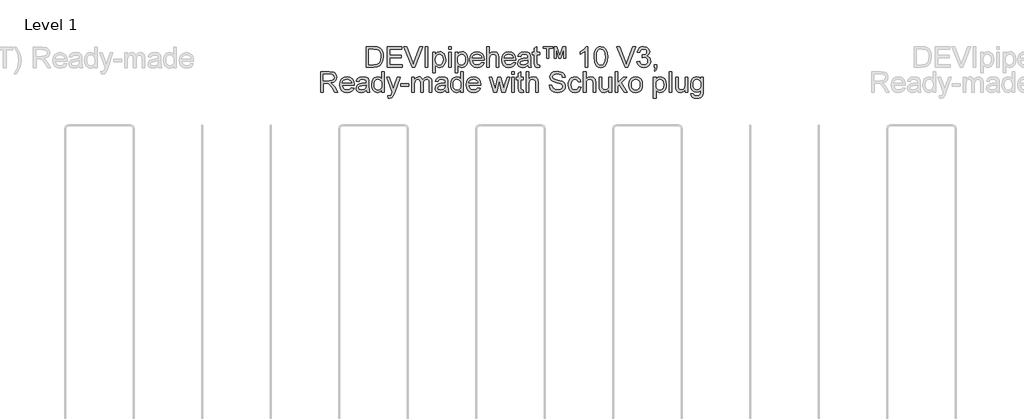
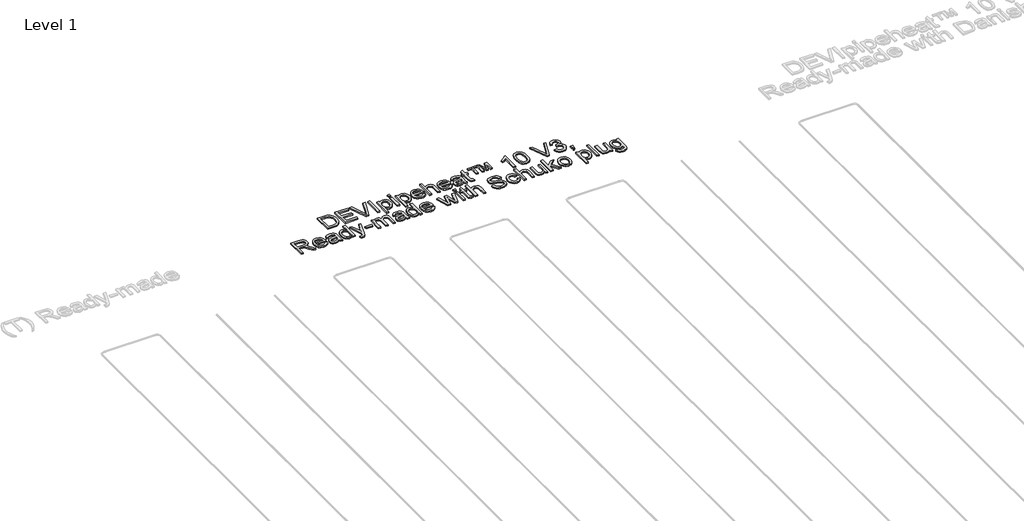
# One storey, part 25 of 26: 1 proxy.
"""IFC4 building model written with IfcOpenShell, lengths in millimetres."""

from ifc_helpers import new_model, si_unit, origin, origin_with_axes, place, context, project, spatial, polyline, outline, extrude, element, save

model = new_model("IFC4")

# Units and contexts
model_context = context("Model", 3, world=origin())
ifc_project = project(units=[si_unit("LENGTHUNIT", "METRE", prefix="MILLI")], contexts=[model_context])

# Site, building, storey
site = spatial("IfcSite", under=ifc_project)
building = spatial("IfcBuilding", under=site)
storey = spatial("IfcBuildingStorey", under=building, Name="Level 1", Elevation=0.0)

# Proxy
placement = place(None, origin())
element("IfcBuildingElementProxy", 1, Name="150mm", ObjectType="150mm", at=placement, inside=storey, context=model_context, shape_type="SweptSolid", body=[
    extrude(outline(polyline([(9110.8051646, 2484.9298), (9110.8051646, 2635.6142653), (9162.7868906, 2635.6142653), (9189.6790644, 2633.4437615), (9211.8255605, 2622.664819), (9222.245818, 2611.1869008), (9229.6678373, 2596.9130794), (9234.1100124, 2580.1192663), (9235.5907374, 2561.081373), (9231.5808237, 2530.6759261), (9221.2801278, 2508.7317651), (9207.5213412, 2495.064949), (9189.5135175, 2487.504974), (9165.2884881, 2484.9298), (9110.8051646, 2484.9298)]), holes=[polyline([(9129.6407228, 2503.7653582), (9162.9708316, 2503.7653582), (9187.214255, 2506.487685), (9201.1937709, 2514.1764187), (9212.653295, 2532.8832181), (9216.7551793, 2561.3756786), (9214.7456239, 2581.903494), (9208.7169577, 2597.0602322), (9199.8096149, 2607.4712926), (9189.1640296, 2613.7620748), (9162.4557968, 2616.7787071), (9129.6407228, 2616.7787071), (9129.6407228, 2503.7653582)])]), origin_with_axes(), (0.0, 0.0, 1.0), 10.0),
    extrude(outline(polyline([(9261.4896299, 2484.9298), (9261.4896299, 2635.6142653), (9369.7940893, 2635.6142653), (9369.7940893, 2616.7787071), (9280.325188, 2616.7787071), (9280.325188, 2572.0442565), (9365.0851997, 2572.0442565), (9365.0851997, 2553.2086983), (9280.325188, 2553.2086983), (9280.325188, 2503.7653582), (9372.148534, 2503.7653582), (9372.148534, 2484.9298), (9261.4896299, 2484.9298)])), origin_with_axes(), (0.0, 0.0, 1.0), 10.0),
    extrude(outline(polyline([(9444.9155927, 2484.9298), (9384.9508275, 2635.6142653), (9405.1107608, 2635.6142653), (9445.2466865, 2527.0522885), (9453.3768786, 2502.5881358), (9461.3967061, 2527.0522885), (9501.6429963, 2635.6142653), (9521.8029297, 2635.6142653), (9464.3765502, 2484.9298), (9444.9155927, 2484.9298)])), origin_with_axes(), (0.0, 0.0, 1.0), 10.0),
    extrude(outline(polyline([(9541.6685574, 2484.9298), (9541.6685574, 2635.6142653), (9560.5041156, 2635.6142653), (9560.5041156, 2484.9298), (9541.6685574, 2484.9298)])), origin_with_axes(), (0.0, 0.0, 1.0), 10.0),
    extrude(outline(polyline([(9595.8207871, 2442.5497942), (9595.8207871, 2595.5887042), (9614.6563452, 2595.5887042), (9614.6563452, 2577.121028), (9627.6793679, 2592.7376187), (9645.2641272, 2597.943149), (9658.0020413, 2596.1221331), (9669.1396687, 2590.6590855), (9678.2079599, 2581.8850999), (9684.7378653, 2570.1312701), (9689.9985779, 2541.1053807), (9688.5132543, 2524.9967478), (9684.0572836, 2510.5895692), (9676.7732201, 2498.6150103), (9666.8036181, 2489.8042365), (9655.1923426, 2484.3825756), (9642.9832589, 2482.5753553), (9626.594116, 2487.4130035), (9614.6563452, 2499.6450798), (9614.6563452, 2442.5497942), (9595.8207871, 2442.5497942)]), holes=[polyline([(9614.6563452, 2539.3763353), (9616.6934918, 2522.4905517), (9622.8049314, 2510.6815397), (9631.8226388, 2503.72857), (9642.5785887, 2501.4109134), (9653.5092825, 2503.8113434), (9662.7569161, 2511.0126335), (9669.0614938, 2523.2539069), (9671.1630197, 2540.7742869), (9669.1120776, 2557.5681), (9662.9592512, 2569.5426589), (9653.9553394, 2576.7163578), (9643.3511409, 2579.1075908), (9632.7055556, 2576.5646065), (9623.3567544, 2568.9356536), (9616.8314475, 2556.4598555), (9614.6563452, 2539.3763353)])]), origin_with_axes(), (0.0, 0.0, 1.0), 10.0),
    extrude(outline(polyline([(9711.1885808, 2616.7787071), (9711.1885808, 2635.6142653), (9730.0241389, 2635.6142653), (9730.0241389, 2616.7787071), (9711.1885808, 2616.7787071)])), origin_with_axes(), (0.0, 0.0, 1.0), 10.0),
    extrude(outline(polyline([(9711.1885808, 2484.9298), (9711.1885808, 2595.5887042), (9730.0241389, 2595.5887042), (9730.0241389, 2484.9298), (9711.1885808, 2484.9298)])), origin_with_axes(), (0.0, 0.0, 1.0), 10.0),
    extrude(outline(polyline([(9758.2774762, 2442.5497942), (9758.2774762, 2595.5887042), (9777.1130343, 2595.5887042), (9777.1130343, 2577.121028), (9790.1360569, 2592.7376187), (9807.7208163, 2597.943149), (9820.4587304, 2596.1221331), (9831.5963578, 2590.6590855), (9840.664649, 2581.8850999), (9847.1945544, 2570.1312701), (9852.4552669, 2541.1053807), (9850.9699434, 2524.9967478), (9846.5139727, 2510.5895692), (9839.2299092, 2498.6150103), (9829.2603071, 2489.8042365), (9817.6490317, 2484.3825756), (9805.4399479, 2482.5753553), (9789.0508051, 2487.4130035), (9777.1130343, 2499.6450798), (9777.1130343, 2442.5497942), (9758.2774762, 2442.5497942)]), holes=[polyline([(9777.1130343, 2539.3763353), (9779.1501809, 2522.4905517), (9785.2616205, 2510.6815397), (9794.2793279, 2503.72857), (9805.0352777, 2501.4109134), (9815.9659715, 2503.8113434), (9825.2136052, 2511.0126335), (9831.5181829, 2523.2539069), (9833.6197088, 2540.7742869), (9831.5687666, 2557.5681), (9825.4159403, 2569.5426589), (9816.4120284, 2576.7163578), (9805.8078299, 2579.1075908), (9795.1622447, 2576.5646065), (9785.8134435, 2568.9356536), (9779.2881366, 2556.4598555), (9777.1130343, 2539.3763353)])]), origin_with_axes(), (0.0, 0.0, 1.0), 10.0),
    extrude(outline(polyline([(9951.121218, 2517.8920268), (9969.5888942, 2515.537582), (9962.9348286, 2501.6224456), (9952.3168345, 2491.2205822), (9937.9740352, 2484.736662), (9920.145554, 2482.5753553), (9898.0450432, 2486.304759), (9881.0396979, 2497.4929702), (9870.1963761, 2515.4134219), (9866.5819355, 2539.3395471), (9870.2331643, 2564.0704143), (9881.1868507, 2582.5656816), (9897.9622697, 2594.0987821), (9919.0786962, 2597.943149), (9939.5375337, 2594.1079792), (9955.8852899, 2582.6024698), (9966.6044515, 2564.1439907), (9970.1775054, 2539.4499117), (9970.0671408, 2534.3731402), (9885.4174937, 2534.3731402), (9888.6778479, 2520.2740627), (9896.2516184, 2509.9089875), (9907.1823122, 2503.5354319), (9920.513436, 2501.4109134), (9938.9811122, 2505.3472508), (9951.121218, 2517.8920268)]), holes=[polyline([(9885.4174937, 2553.2086983), (9951.3419472, 2553.2086983), (9948.7943644, 2563.1599063), (9943.8003663, 2570.2784229), (9932.8190888, 2576.9002988), (9919.0051199, 2579.1075908), (9906.3085925, 2577.3463558), (9895.8101601, 2572.0626506), (9888.512301, 2563.8266924), (9885.4174937, 2553.2086983)])]), origin_with_axes(), (0.0, 0.0, 1.0), 10.0),
    extrude(outline(polyline([(9989.0130635, 2484.9298), (9989.0130635, 2635.6142653), (10007.8486217, 2635.6142653), (10007.8486217, 2580.2112368), (10022.5363103, 2593.5101709), (10040.6269075, 2597.943149), (10061.7801222, 2593.1055007), (10074.6192038, 2579.7329902), (10078.4819648, 2554.9745319), (10078.4819648, 2484.9298), (10059.6464066, 2484.9298), (10059.6464066, 2553.0247573), (10058.1472875, 2564.8153753), (10053.6499301, 2572.8903851), (10046.4026548, 2577.5532894), (10036.6537819, 2579.1075908), (10021.2211322, 2574.9137361), (10010.9204363, 2563.5461824), (10007.8486217, 2543.7173429), (10007.8486217, 2484.9298), (9989.0130635, 2484.9298)])), origin_with_axes(), (0.0, 0.0, 1.0), 10.0),
    extrude(outline(polyline([(10181.8568054, 2517.8920268), (10200.3244816, 2515.537582), (10193.670416, 2501.6224456), (10183.0524219, 2491.2205822), (10168.7096226, 2484.736662), (10150.8811414, 2482.5753553), (10128.7806306, 2486.304759), (10111.7752853, 2497.4929702), (10100.9319635, 2515.4134219), (10097.3175229, 2539.3395471), (10100.9687517, 2564.0704143), (10111.9224381, 2582.5656816), (10128.6978571, 2594.0987821), (10149.8142836, 2597.943149), (10170.2731211, 2594.1079792), (10186.6208772, 2582.6024698), (10197.3400389, 2564.1439907), (10200.9130928, 2539.4499117), (10200.8027282, 2534.3731402), (10116.1530811, 2534.3731402), (10119.4134352, 2520.2740627), (10126.9872058, 2509.9089875), (10137.9178996, 2503.5354319), (10151.2490234, 2501.4109134), (10169.7166996, 2505.3472508), (10181.8568054, 2517.8920268)]), holes=[polyline([(10116.1530811, 2553.2086983), (10182.0775346, 2553.2086983), (10179.5299518, 2563.1599063), (10174.5359537, 2570.2784229), (10163.5546761, 2576.9002988), (10149.7407072, 2579.1075908), (10137.0441799, 2577.3463558), (10126.5457474, 2572.0626506), (10119.2478884, 2563.8266924), (10116.1530811, 2553.2086983)])]), origin_with_axes(), (0.0, 0.0, 1.0), 10.0),
    extrude(outline(polyline([(10290.381994, 2499.0564687), (10272.1166529, 2486.2909634), (10251.9383255, 2482.5753553), (10236.1975746, 2484.8102384), (10224.5862991, 2491.5148878), (10217.4263958, 2501.696022), (10215.0397614, 2514.3603597), (10218.6450049, 2529.2595805), (10228.1179663, 2540.0753111), (10241.3065358, 2546.2557286), (10257.6037082, 2549.08842), (10290.2716294, 2555.5631431), (10290.381994, 2559.7569979), (10289.0852099, 2568.1631015), (10285.1948578, 2573.6629373), (10276.4944487, 2577.7464274), (10264.3727369, 2579.1075908), (10245.3164496, 2575.4839532), (10236.2297643, 2562.6264774), (10217.3942061, 2564.9809222), (10225.5427923, 2583.375022), (10241.9503293, 2594.1539644), (10266.8007581, 2597.943149), (10289.6278359, 2594.5954228), (10302.5220998, 2586.1893192), (10308.2978471, 2573.4054199), (10309.2175521, 2556.9243065), (10309.2175521, 2533.4902234), (10310.1740453, 2500.7671199), (10313.9264417, 2484.9298), (10295.0908835, 2484.9298), (10290.381994, 2499.0564687)]), holes=[polyline([(10290.381994, 2536.727585), (10259.9949412, 2530.9518376), (10243.7897393, 2527.8984171), (10236.4504935, 2522.9320101), (10233.8753195, 2515.6847348), (10239.4855199, 2505.4944036), (10255.9482392, 2501.4109134), (10275.0045266, 2505.9174679), (10287.2917852, 2516.825169), (10290.2716294, 2531.393296), (10290.381994, 2536.727585)])]), origin_with_axes(), (0.0, 0.0, 1.0), 10.0),
    extrude(outline(polyline([(10375.1420057, 2500.6383612), (10377.4964504, 2484.377977), (10363.40657, 2482.5753553), (10347.6244324, 2485.7023522), (10339.7517577, 2493.9061207), (10337.4708894, 2515.2800646), (10337.4708894, 2576.753146), (10323.3442207, 2576.753146), (10323.3442207, 2595.5887042), (10337.4708894, 2595.5887042), (10337.4708894, 2622.480878), (10356.3064475, 2633.5541261), (10356.3064475, 2595.5887042), (10375.1420057, 2595.5887042), (10375.1420057, 2576.753146), (10356.3064475, 2576.753146), (10356.3064475, 2515.8318876), (10357.2997289, 2506.119803), (10360.5186964, 2502.6801063), (10366.9382372, 2501.4109134), (10375.1420057, 2500.6383612)])), origin_with_axes(), (0.0, 0.0, 1.0), 10.0),
    extrude(outline(polyline([(10429.2942354, 2550.8542536), (10429.2942354, 2621.4875967), (10401.0408981, 2621.4875967), (10401.0408981, 2635.6142653), (10471.6742412, 2635.6142653), (10471.6742412, 2621.4875967), (10443.420904, 2621.4875967), (10443.420904, 2550.8542536), (10429.2942354, 2550.8542536)])), origin_with_axes(), (0.0, 0.0, 1.0), 10.0),
    extrude(outline(polyline([(10481.0920203, 2550.8542536), (10481.0920203, 2635.6142653), (10501.9877176, 2635.6142653), (10523.5456025, 2567.5560962), (10544.84597, 2635.6142653), (10565.852032, 2635.6142653), (10565.852032, 2550.8542536), (10551.7253634, 2550.8542536), (10551.7253634, 2620.4575271), (10530.5353604, 2550.8542536), (10516.4086918, 2550.8542536), (10495.2186889, 2621.4875967), (10495.2186889, 2550.8542536), (10481.0920203, 2550.8542536)])), origin_with_axes(), (0.0, 0.0, 1.0), 10.0),
    extrude(outline(polyline([(10728.308721, 2484.9298), (10709.4731629, 2484.9298), (10709.4731629, 2602.3577329), (10691.6308861, 2589.64741), (10671.8020466, 2580.1376604), (10671.8020466, 2597.943149), (10699.4115903, 2615.5646965), (10716.1686152, 2635.6142653), (10728.308721, 2635.6142653), (10728.308721, 2484.9298)])), origin_with_axes(), (0.0, 0.0, 1.0), 10.0),
    extrude(outline(polyline([(10773.0431717, 2559.0580221), (10774.4273277, 2583.1772854), (10778.5797957, 2602.4129152), (10785.459189, 2617.0592171), (10795.0241209, 2627.4104968), (10807.3435692, 2633.5633231), (10822.4865118, 2635.6142653), (10844.4858551, 2630.7582229), (10859.6793815, 2616.760313), (10868.5085494, 2594.4666641), (10871.929852, 2559.0580221), (10870.5594915, 2535.0767145), (10866.4484102, 2515.8870699), (10859.6104036, 2501.2269724), (10850.0592673, 2490.8343061), (10837.7122279, 2484.640093), (10822.4865118, 2482.5753553), (10802.9151897, 2486.1622047), (10788.0527571, 2496.9227531), (10776.795568, 2522.4077783), (10773.0431717, 2559.0580221)]), holes=[polyline([(10791.8787298, 2559.0948103), (10794.0860218, 2529.4665141), (10800.7078977, 2512.3186146), (10810.5671352, 2504.1378387), (10822.4865118, 2501.4109134), (10834.4058884, 2504.1470358), (10844.2651259, 2512.3554028), (10850.8870018, 2529.5124993), (10853.0942938, 2559.0948103), (10850.9605782, 2588.0563203), (10844.5594315, 2605.3375771), (10834.7185881, 2613.9184246), (10822.2657826, 2616.7787071), (10810.4751647, 2614.2587154), (10801.0022033, 2606.6987404), (10794.1595982, 2588.3414289), (10791.8787298, 2559.0948103)])]), origin_with_axes(), (0.0, 0.0, 1.0), 10.0),
    extrude(outline(polyline([(10998.8491403, 2484.9298), (10938.8843751, 2635.6142653), (10959.0443084, 2635.6142653), (10999.1802341, 2527.0522885), (11007.3104262, 2502.5881358), (11015.3302537, 2527.0522885), (11055.5765439, 2635.6142653), (11075.7364773, 2635.6142653), (11018.3100978, 2484.9298), (10998.8491403, 2484.9298)])), origin_with_axes(), (0.0, 0.0, 1.0), 10.0),
    extrude(outline(polyline([(11086.1843259, 2524.9553611), (11105.0198841, 2527.3098059), (11109.2367315, 2515.4732027), (11115.4125505, 2507.4809663), (11123.8508437, 2502.9284267), (11134.8551139, 2501.4109134), (11147.7677719, 2503.4986437), (11157.737374, 2509.7618347), (11164.1109296, 2519.1060374), (11166.2354481, 2530.4368028), (11164.1293237, 2541.1927527), (11157.8109504, 2549.9161545), (11148.2460185, 2555.6965003), (11136.4002183, 2557.6232823), (11123.1932547, 2555.5631431), (11125.290182, 2574.3987013), (11128.3068144, 2574.1779721), (11149.6807583, 2579.5858374), (11156.7992749, 2586.4468366), (11159.1721138, 2596.2141036), (11157.4522655, 2604.3488942), (11152.2927205, 2610.9477775), (11144.4200458, 2615.3209747), (11134.5608083, 2616.7787071), (11124.6831767, 2615.3071791), (11116.6081669, 2610.8925952), (11110.712858, 2603.5349553), (11107.3743289, 2593.2342594), (11088.5387707, 2595.5887042), (11094.0845918, 2612.5020789), (11103.9530263, 2625.1296284), (11117.4542955, 2632.9931061), (11133.8986207, 2635.6142653), (11156.6153339, 2630.4455232), (11172.5078361, 2616.3188546), (11178.0076719, 2597.3177496), (11172.7837476, 2579.9537194), (11157.3327038, 2567.4825198), (11169.1233218, 2562.7184479), (11177.8605191, 2554.6066499), (11183.2683845, 2543.5885842), (11185.0710063, 2530.105709), (11181.4657627, 2511.7483975), (11170.650032, 2496.4077183), (11154.3252685, 2486.033446), (11134.1929263, 2482.5753553), (11115.9827676, 2485.5276083), (11101.1571232, 2494.3843673), (11090.8472302, 2507.9316218), (11086.1843259, 2524.9553611)])), origin_with_axes(), (0.0, 0.0, 1.0), 10.0),
    extrude(outline(polyline([(11210.9698987, 2484.9298), (11210.9698987, 2503.7653582), (11229.8054569, 2503.7653582), (11229.8054569, 2484.9298), (11226.4209425, 2465.6711776), (11215.6787883, 2454.322018), (11210.9698987, 2461.3853524), (11217.8860802, 2469.5155444), (11220.3508896, 2484.9298), (11210.9698987, 2484.9298)])), origin_with_axes(), (0.0, 0.0, 1.0), 10.0),
    extrude(outline(polyline([(8776.4740074, 2301.9675733), (8776.4740074, 2452.6520385), (8841.4051796, 2452.6520385), (8871.5531091, 2448.5869425), (8880.8329324, 2442.9583479), (8888.0342225, 2434.2027564), (8892.65574, 2423.3456391), (8894.1962459, 2411.4124668), (8891.6440645, 2396.5684283), (8883.9875205, 2384.2627756), (8870.9966876, 2375.2404697), (8852.4416394, 2370.2464716), (8863.1470055, 2362.1898559), (8878.4141083, 2342.8024747), (8903.5404486, 2301.9675733), (8881.6514699, 2301.9675733), (8862.0433595, 2333.2007547), (8847.8799027, 2353.8757228), (8837.9286947, 2363.6429898), (8828.9707681, 2367.2298392), (8818.0446729, 2367.8920268), (8795.3095656, 2367.8920268), (8795.3095656, 2301.9675733), (8776.4740074, 2301.9675733)]), holes=[polyline([(8795.3095656, 2386.727585), (8837.4688422, 2386.727585), (8858.9715448, 2389.3947294), (8871.1852271, 2397.9295917), (8875.3606877, 2410.713491), (8873.3695264, 2419.9013439), (8867.3960425, 2427.304969), (8857.1183393, 2432.1886025), (8842.21452, 2433.8164803), (8795.3095656, 2433.8164803), (8795.3095656, 2386.727585)])]), origin_with_axes(), (0.0, 0.0, 1.0), 10.0),
    extrude(outline(polyline([(9002.2799761, 2334.9298), (9020.7476522, 2332.5753553), (9014.0935866, 2318.6602188), (9003.4755926, 2308.2583554), (8989.1327933, 2301.7744352), (8971.3043121, 2299.6131285), (8949.2038012, 2303.3425322), (8932.198456, 2314.5307434), (8921.3551342, 2332.4511951), (8917.7406936, 2356.3773204), (8921.3919224, 2381.1081875), (8932.3456088, 2399.6034548), (8949.1210278, 2411.1365553), (8970.2374543, 2414.9809222), (8990.6962917, 2411.1457524), (9007.0440479, 2399.640243), (9017.7632095, 2381.1817639), (9021.3362634, 2356.487685), (9021.2258988, 2351.4109134), (8936.5762517, 2351.4109134), (8939.8366059, 2337.311836), (8947.4103765, 2326.9467607), (8958.3410703, 2320.5732052), (8971.6721941, 2318.4486867), (8990.1398702, 2322.385024), (9002.2799761, 2334.9298)]), holes=[polyline([(8936.5762517, 2370.2464716), (9002.5007053, 2370.2464716), (8999.9531225, 2380.1976795), (8994.9591244, 2387.3161962), (8983.9778468, 2393.9380721), (8970.1638779, 2396.145364), (8957.4673505, 2394.384129), (8946.9689181, 2389.1004238), (8939.671059, 2380.8644657), (8936.5762517, 2370.2464716)])]), origin_with_axes(), (0.0, 0.0, 1.0), 10.0),
    extrude(outline(polyline([(9110.8051646, 2316.0942419), (9092.5398236, 2303.3287367), (9072.3614962, 2299.6131285), (9056.6207453, 2301.8480116), (9045.0094698, 2308.552661), (9037.8495665, 2318.7337952), (9035.462932, 2331.3981329), (9039.0681756, 2346.2973537), (9048.541137, 2357.1130844), (9061.7297065, 2363.2935019), (9078.0268789, 2366.1261932), (9110.6948, 2372.6009163), (9110.8051646, 2376.7947711), (9109.5083806, 2385.2008747), (9105.6180285, 2390.7007105), (9096.9176193, 2394.7842007), (9084.7959076, 2396.145364), (9065.7396202, 2392.5217264), (9056.652935, 2379.6642507), (9037.8173768, 2382.0186954), (9045.965963, 2400.4127952), (9062.3735, 2411.1917376), (9087.2239288, 2414.9809222), (9110.0510066, 2411.633196), (9122.9452705, 2403.2270924), (9128.7210178, 2390.4431931), (9129.6407228, 2373.9620797), (9129.6407228, 2350.5279966), (9130.597216, 2317.8048932), (9134.3496123, 2301.9675733), (9115.5140542, 2301.9675733), (9110.8051646, 2316.0942419)]), holes=[polyline([(9110.8051646, 2353.7653582), (9080.4181118, 2347.9896109), (9064.21291, 2344.9361903), (9056.8736642, 2339.9697834), (9054.2984902, 2332.7225081), (9059.9086906, 2322.5321768), (9076.3714099, 2318.4486867), (9095.4276972, 2322.9552411), (9107.7149559, 2333.8629423), (9110.6948, 2348.4310693), (9110.8051646, 2353.7653582)])]), origin_with_axes(), (0.0, 0.0, 1.0), 10.0),
    extrude(outline(polyline([(9223.8185136, 2301.9675733), (9223.8185136, 2319.7362736), (9211.356511, 2304.6439148), (9194.1304366, 2299.6131285), (9181.9535425, 2301.4341444), (9170.8067181, 2306.897192), (9161.3705449, 2315.6205938), (9154.3256047, 2327.2226722), (9149.9386119, 2341.2343777), (9148.476281, 2357.1866608), (9153.8657522, 2387.1690434), (9160.5979927, 2399.0608289), (9170.0157718, 2407.8072233), (9181.406318, 2413.1874975), (9194.0568602, 2414.9809222), (9211.4208903, 2409.8489684), (9223.8185136, 2396.513246), (9223.8185136, 2452.6520385), (9242.6540717, 2452.6520385), (9242.6540717, 2301.9675733), (9223.8185136, 2301.9675733)]), holes=[polyline([(9167.3118391, 2357.2602371), (9169.4363576, 2340.2227022), (9175.8099132, 2328.105589), (9185.0713424, 2320.8629123), (9195.8594819, 2318.4486867), (9206.6430229, 2320.7525477), (9215.6699274, 2327.6641306), (9221.781367, 2339.3121943), (9223.8185136, 2355.8254974), (9221.7445788, 2373.8793063), (9215.5227746, 2386.3964912), (9206.2659439, 2393.7081458), (9195.0869297, 2396.145364), (9184.1884256, 2393.8047148), (9175.2580902, 2386.7827673), (9169.2984019, 2374.7208363), (9167.3118391, 2357.2602371)])]), origin_with_axes(), (0.0, 0.0, 1.0), 10.0),
    extrude(outline(polyline([(9270.9074089, 2259.5875674), (9268.5529642, 2277.7241498), (9278.1178961, 2276.0686808), (9287.0574285, 2278.1472141), (9292.5388703, 2283.9413555), (9297.6892182, 2297.8105067), (9299.1607462, 2302.3722435), (9259.1351851, 2412.6264774), (9279.0008128, 2412.6264774), (9300.227604, 2351.1901842), (9307.6220321, 2326.615667), (9315.0164602, 2348.3207047), (9336.8318625, 2412.6264774), (9356.5503374, 2412.6264774), (9318.0330925, 2299.3188229), (9308.0267023, 2274.7443056), (9297.100607, 2261.4637656), (9282.4221154, 2257.2331227), (9270.9074089, 2259.5875674)])), origin_with_axes(), (0.0, 0.0, 1.0), 10.0),
    extrude(outline(polyline([(9362.7307549, 2346.7020239), (9362.7307549, 2365.537582), (9421.5918742, 2365.537582), (9421.5918742, 2346.7020239), (9362.7307549, 2346.7020239)])), origin_with_axes(), (0.0, 0.0, 1.0), 10.0),
    extrude(outline(polyline([(9442.7818771, 2301.9675733), (9442.7818771, 2412.6264774), (9461.6174352, 2412.6264774), (9461.6174352, 2394.4163187), (9474.5668815, 2409.3339336), (9492.9977694, 2414.9809222), (9503.4732092, 2413.5415839), (9511.8701158, 2409.223569), (9522.2443881, 2393.0919435), (9536.9412738, 2409.5086775), (9555.5009204, 2414.9809222), (9569.6597787, 2412.7046523), (9580.13062, 2405.8758428), (9586.6007446, 2394.3105526), (9588.7574528, 2377.8248407), (9588.7574528, 2301.9675733), (9569.9218946, 2301.9675733), (9569.9218946, 2369.7314368), (9568.1744552, 2385.4583921), (9561.8468848, 2393.2023081), (9551.0863365, 2396.145364), (9540.8822096, 2394.2599688), (9532.563478, 2388.6037831), (9527.0314525, 2378.7905309), (9525.187444, 2364.4339361), (9525.187444, 2301.9675733), (9506.3518859, 2301.9675733), (9506.3518859, 2371.8283642), (9501.9924842, 2390.0753111), (9496.2397295, 2394.6278508), (9487.7002687, 2396.145364), (9473.7575411, 2392.0986621), (9464.4869148, 2380.2528618), (9461.6174352, 2357.7752719), (9461.6174352, 2301.9675733), (9442.7818771, 2301.9675733)])), origin_with_axes(), (0.0, 0.0, 1.0), 10.0),
    extrude(outline(polyline([(9687.6441331, 2316.0942419), (9669.378792, 2303.3287367), (9649.2004646, 2299.6131285), (9633.4597137, 2301.8480116), (9621.8484382, 2308.552661), (9614.6885349, 2318.7337952), (9612.3019005, 2331.3981329), (9615.907144, 2346.2973537), (9625.3801054, 2357.1130844), (9638.5686749, 2363.2935019), (9654.8658473, 2366.1261932), (9687.5337685, 2372.6009163), (9687.6441331, 2376.7947711), (9686.3473491, 2385.2008747), (9682.456997, 2390.7007105), (9673.7565878, 2394.7842007), (9661.634876, 2396.145364), (9642.5785887, 2392.5217264), (9633.4919034, 2379.6642507), (9614.6563452, 2382.0186954), (9622.8049314, 2400.4127952), (9639.2124684, 2411.1917376), (9664.0628972, 2414.9809222), (9686.889975, 2411.633196), (9699.7842389, 2403.2270924), (9705.5599862, 2390.4431931), (9706.4796912, 2373.9620797), (9706.4796912, 2350.5279966), (9707.4361844, 2317.8048932), (9711.1885808, 2301.9675733), (9692.3530226, 2301.9675733), (9687.6441331, 2316.0942419)]), holes=[polyline([(9687.6441331, 2353.7653582), (9657.2570803, 2347.9896109), (9641.0518784, 2344.9361903), (9633.7126326, 2339.9697834), (9631.1374586, 2332.7225081), (9636.7476591, 2322.5321768), (9653.2103783, 2318.4486867), (9672.2666657, 2322.9552411), (9684.5539243, 2333.8629423), (9687.5337685, 2348.4310693), (9687.6441331, 2353.7653582)])]), origin_with_axes(), (0.0, 0.0, 1.0), 10.0),
    extrude(outline(polyline([(9800.657482, 2301.9675733), (9800.657482, 2319.7362736), (9788.1954794, 2304.6439148), (9770.969405, 2299.6131285), (9758.792511, 2301.4341444), (9747.6456865, 2306.897192), (9738.2095133, 2315.6205938), (9731.1645731, 2327.2226722), (9726.7775803, 2341.2343777), (9725.3152494, 2357.1866608), (9730.7047206, 2387.1690434), (9737.4369611, 2399.0608289), (9746.8547402, 2407.8072233), (9758.2452865, 2413.1874975), (9770.8958286, 2414.9809222), (9788.2598588, 2409.8489684), (9800.657482, 2396.513246), (9800.657482, 2452.6520385), (9819.4930402, 2452.6520385), (9819.4930402, 2301.9675733), (9800.657482, 2301.9675733)]), holes=[polyline([(9744.1508075, 2357.2602371), (9746.2753261, 2340.2227022), (9752.6488816, 2328.105589), (9761.9103109, 2320.8629123), (9772.6984504, 2318.4486867), (9783.4819914, 2320.7525477), (9792.5088958, 2327.6641306), (9798.6203355, 2339.3121943), (9800.657482, 2355.8254974), (9798.5835473, 2373.8793063), (9792.361743, 2386.3964912), (9783.1049123, 2393.7081458), (9771.9258982, 2396.145364), (9761.0273941, 2393.8047148), (9752.0970586, 2386.7827673), (9746.1373703, 2374.7208363), (9744.1508075, 2357.2602371)])]), origin_with_axes(), (0.0, 0.0, 1.0), 10.0),
    extrude(outline(polyline([(9925.2223256, 2334.9298), (9943.6900017, 2332.5753553), (9937.0359361, 2318.6602188), (9926.4179421, 2308.2583554), (9912.0751428, 2301.7744352), (9894.2466616, 2299.6131285), (9872.1461507, 2303.3425322), (9855.1408055, 2314.5307434), (9844.2974837, 2332.4511951), (9840.6830431, 2356.3773204), (9844.3342719, 2381.1081875), (9855.2879583, 2399.6034548), (9872.0633773, 2411.1365553), (9893.1798038, 2414.9809222), (9913.6386412, 2411.1457524), (9929.9863974, 2399.640243), (9940.705559, 2381.1817639), (9944.2786129, 2356.487685), (9944.1682483, 2351.4109134), (9859.5186012, 2351.4109134), (9862.7789554, 2337.311836), (9870.352726, 2326.9467607), (9881.2834198, 2320.5732052), (9894.6145436, 2318.4486867), (9913.0822197, 2322.385024), (9925.2223256, 2334.9298)]), holes=[polyline([(9859.5186012, 2370.2464716), (9925.4430548, 2370.2464716), (9922.8954719, 2380.1976795), (9917.9014739, 2387.3161962), (9906.9201963, 2393.9380721), (9893.1062274, 2396.145364), (9880.4097, 2394.384129), (9869.9112676, 2389.1004238), (9862.6134085, 2380.8644657), (9859.5186012, 2370.2464716)])]), origin_with_axes(), (0.0, 0.0, 1.0), 10.0),
    extrude(outline(polyline([(10040.3326019, 2301.9675733), (10006.6713993, 2412.6264774), (10026.2427214, 2412.6264774), (10045.335797, 2348.0631873), (10051.0379679, 2324.9969862), (10055.7100693, 2347.2170587), (10070.9035957, 2412.6264774), (10093.3443974, 2412.6264774), (10108.4643474, 2347.4009997), (10112.6214139, 2327.2778545), (10118.5811022, 2348.5046457), (10137.710966, 2412.6264774), (10157.3558645, 2412.6264774), (10123.4371446, 2301.9675733), (10100.6652491, 2301.9675733), (10086.2074867, 2366.8619572), (10082.0136319, 2387.095467), (10063.3620148, 2301.9675733), (10040.3326019, 2301.9675733)])), origin_with_axes(), (0.0, 0.0, 1.0), 10.0),
    extrude(outline(polyline([(10170.3053108, 2433.8164803), (10170.3053108, 2452.6520385), (10189.1408689, 2452.6520385), (10189.1408689, 2433.8164803), (10170.3053108, 2433.8164803)])), origin_with_axes(), (0.0, 0.0, 1.0), 10.0),
    extrude(outline(polyline([(10170.3053108, 2301.9675733), (10170.3053108, 2412.6264774), (10189.1408689, 2412.6264774), (10189.1408689, 2301.9675733), (10170.3053108, 2301.9675733)])), origin_with_axes(), (0.0, 0.0, 1.0), 10.0),
    extrude(outline(polyline([(10257.4197672, 2317.6761345), (10259.774212, 2301.4157503), (10245.6843316, 2299.6131285), (10229.902194, 2302.7401255), (10222.0295193, 2310.943894), (10219.7486509, 2332.3178379), (10219.7486509, 2393.7909193), (10205.6219823, 2393.7909193), (10205.6219823, 2412.6264774), (10219.7486509, 2412.6264774), (10219.7486509, 2439.5186513), (10238.5842091, 2450.5918993), (10238.5842091, 2412.6264774), (10257.4197672, 2412.6264774), (10257.4197672, 2393.7909193), (10238.5842091, 2393.7909193), (10238.5842091, 2332.8696609), (10239.5774904, 2323.1575762), (10242.7964579, 2319.7178795), (10249.2159987, 2318.4486867), (10257.4197672, 2317.6761345)])), origin_with_axes(), (0.0, 0.0, 1.0), 10.0),
    extrude(outline(polyline([(10276.2553254, 2301.9675733), (10276.2553254, 2452.6520385), (10295.0908835, 2452.6520385), (10295.0908835, 2397.24901), (10309.7785722, 2410.5479442), (10327.8691693, 2414.9809222), (10349.022384, 2410.143274), (10361.8614656, 2396.7707634), (10365.7242266, 2372.0123052), (10365.7242266, 2301.9675733), (10346.8886684, 2301.9675733), (10346.8886684, 2370.0625306), (10345.3895493, 2381.8531485), (10340.8921919, 2389.9281583), (10333.6449166, 2394.5910626), (10323.8960437, 2396.145364), (10308.463394, 2391.9515093), (10298.1626982, 2380.5839556), (10295.0908835, 2360.7551161), (10295.0908835, 2301.9675733), (10276.2553254, 2301.9675733)])), origin_with_axes(), (0.0, 0.0, 1.0), 10.0),
    extrude(outline(polyline([(10445.7753487, 2353.7653582), (10464.6109069, 2353.7653582), (10470.6809598, 2334.9114059), (10485.5066042, 2322.9920293), (10508.0945587, 2318.4486867), (10527.7762455, 2321.8883833), (10540.4865684, 2331.3429506), (10544.662029, 2343.9796971), (10541.5350321, 2355.7335269), (10528.7327387, 2364.2867833), (10501.3071359, 2371.4788763), (10471.7846058, 2380.7678966), (10455.7633449, 2394.7842007), (10450.4842383, 2413.5093942), (10452.1167146, 2424.5412555), (10457.0141437, 2434.8281558), (10465.0477668, 2443.5469591), (10476.0888251, 2449.8745294), (10504.0110686, 2455.0064833), (10533.8095102, 2449.6354061), (10545.2322461, 2443.0043332), (10553.6751379, 2433.8532685), (10559.0186239, 2422.7524293), (10561.1431424, 2410.2720327), (10542.3075843, 2410.2720327), (10538.8494935, 2421.5108276), (10531.6390064, 2429.6226256), (10520.3726203, 2434.5338502), (10504.7468326, 2436.1709251), (10488.7531628, 2434.5522443), (10477.7810823, 2429.696202), (10471.4351179, 2422.5500942), (10469.3197964, 2414.0612172), (10470.8189156, 2406.8231389), (10475.316273, 2401.0014064), (10506.0712078, 2390.4799813), (10539.4013165, 2381.025414), (10550.1388723, 2374.192006), (10557.6298694, 2365.7583112), (10562.0306577, 2355.8163003), (10563.4975872, 2344.4579437), (10561.8099285, 2332.8466682), (10556.7469526, 2321.9251715), (10548.5155929, 2312.5257865), (10537.3227832, 2305.4808463), (10523.8629007, 2301.080058), (10508.8303227, 2299.6131285), (10490.3764421, 2301.1950211), (10475.1875143, 2305.9406988), (10463.0887951, 2313.8685558), (10453.9055408, 2324.9969862), (10448.0102319, 2338.5534377), (10445.7753487, 2353.7653582)])), origin_with_axes(), (0.0, 0.0, 1.0), 10.0),
    extrude(outline(polyline([(10660.0298227, 2341.9931343), (10678.8653809, 2339.6386896), (10673.6138654, 2322.8862632), (10663.7454309, 2310.2265241), (10650.1889794, 2302.2664774), (10633.8734129, 2299.6131285), (10613.8376397, 2303.3149411), (10598.1704652, 2314.4203788), (10588.0583089, 2332.441998), (10584.6875901, 2356.8923552), (10586.1269284, 2373.6539786), (10590.4449433, 2388.1807188), (10597.7106128, 2399.911556), (10607.9929145, 2408.2854699), (10620.2939687, 2413.3070591), (10633.6158955, 2414.9809222), (10649.5313903, 2412.6816597), (10662.2555088, 2405.7838723), (10671.3835808, 2394.655442), (10676.5109361, 2379.6642507), (10657.675378, 2377.3098059), (10648.9381806, 2391.4180804), (10633.7630483, 2396.145364), (10621.5907528, 2393.8185104), (10611.9292519, 2386.8379496), (10605.6246742, 2374.8266024), (10603.5231483, 2357.4073899), (10605.5786889, 2339.7536527), (10611.7453109, 2327.7009188), (10621.2320678, 2320.7617447), (10633.2480135, 2318.4486867), (10643.0014849, 2319.8926235), (10650.9983198, 2324.224434), (10656.8154538, 2331.5544827), (10660.0298227, 2341.9931343)])), origin_with_axes(), (0.0, 0.0, 1.0), 10.0),
    extrude(outline(polyline([(10695.3464943, 2301.9675733), (10695.3464943, 2452.6520385), (10714.1820524, 2452.6520385), (10714.1820524, 2397.24901), (10728.8697411, 2410.5479442), (10746.9603382, 2414.9809222), (10768.1135529, 2410.143274), (10780.9526346, 2396.7707634), (10784.8153955, 2372.0123052), (10784.8153955, 2301.9675733), (10765.9798373, 2301.9675733), (10765.9798373, 2370.0625306), (10764.4807182, 2381.8531485), (10759.9833608, 2389.9281583), (10752.7360855, 2394.5910626), (10742.9872126, 2396.145364), (10727.554563, 2391.9515093), (10717.2538671, 2380.5839556), (10714.1820524, 2360.7551161), (10714.1820524, 2301.9675733), (10695.3464943, 2301.9675733)])), origin_with_axes(), (0.0, 0.0, 1.0), 10.0),
    extrude(outline(polyline([(10881.347631, 2301.9675733), (10881.347631, 2320.9870724), (10866.595563, 2304.9566145), (10847.3553347, 2299.6131285), (10829.6418166, 2303.3655249), (10817.4281344, 2312.7833039), (10811.8179339, 2326.6524552), (10810.714288, 2344.1636381), (10810.714288, 2412.6264774), (10829.5498461, 2412.6264774), (10829.5498461, 2353.0295942), (10830.6902803, 2333.8261541), (10838.1398907, 2322.5505709), (10852.1745888, 2318.4486867), (10867.9015441, 2322.6425414), (10878.2942105, 2334.0652774), (10881.347631, 2355.0529452), (10881.347631, 2412.6264774), (10900.1831892, 2412.6264774), (10900.1831892, 2301.9675733), (10881.347631, 2301.9675733)])), origin_with_axes(), (0.0, 0.0, 1.0), 10.0),
    extrude(outline(polyline([(10926.0820816, 2301.9675733), (10926.0820816, 2452.6520385), (10944.9176398, 2452.6520385), (10944.9176398, 2371.6812114), (10987.1504928, 2412.6264774), (11013.1965381, 2412.6264774), (10970.4486503, 2371.1661766), (11015.5509829, 2301.9675733), (10993.5516396, 2301.9675733), (10956.947381, 2358.0695775), (10944.9176398, 2346.4077183), (10944.9176398, 2301.9675733), (10926.0820816, 2301.9675733)])), origin_with_axes(), (0.0, 0.0, 1.0), 10.0),
    extrude(outline(polyline([(11027.3232067, 2357.2970253), (11031.3974998, 2383.977667), (11043.6203791, 2402.7304518), (11058.721935, 2411.9183046), (11076.8033351, 2414.9809222), (11096.5907879, 2411.2515185), (11112.3959181, 2400.0633073), (11122.7563948, 2382.2992054), (11126.209887, 2358.8421297), (11124.6831767, 2339.8134335), (11120.1030459, 2325.32808), (11112.6028517, 2314.4801596), (11102.3159514, 2306.3637631), (11090.0976707, 2301.3007872), (11076.8033351, 2299.6131285), (11056.776759, 2303.3287367), (11040.9900228, 2314.4755611), (11030.7399108, 2332.6121435), (11027.3232067, 2357.2970253)]), holes=[polyline([(11046.1587649, 2357.3338135), (11048.3384657, 2340.2870816), (11054.8775682, 2328.1423772), (11064.7184115, 2320.8721093), (11076.8033351, 2318.4486867), (11088.8330763, 2320.8859049), (11098.6555256, 2328.1975595), (11105.194628, 2340.5032123), (11107.3743289, 2357.9224247), (11105.1808325, 2374.472516), (11098.6003433, 2386.4516735), (11088.7640984, 2393.7219414), (11076.8033351, 2396.145364), (11064.7184115, 2393.7311384), (11054.8775682, 2386.4884617), (11048.3384657, 2374.3713484), (11046.1587649, 2357.3338135)])]), origin_with_axes(), (0.0, 0.0, 1.0), 10.0),
    extrude(outline(polyline([(11206.2610092, 2259.5875674), (11206.2610092, 2412.6264774), (11225.0965673, 2412.6264774), (11225.0965673, 2394.1588013), (11238.11959, 2409.775392), (11255.7043493, 2414.9809222), (11268.4422634, 2413.1599063), (11279.5798908, 2407.6968587), (11288.648182, 2398.9228731), (11295.1780874, 2387.1690434), (11300.4387999, 2358.1431539), (11298.9534764, 2342.0345211), (11294.4975057, 2327.6273424), (11287.2134422, 2315.6527835), (11277.2438401, 2306.8420097), (11265.6325647, 2301.4203488), (11253.423481, 2299.6131285), (11237.0343381, 2304.4507767), (11225.0965673, 2316.6828531), (11225.0965673, 2259.5875674), (11206.2610092, 2259.5875674)]), holes=[polyline([(11225.0965673, 2356.4141086), (11227.1337139, 2339.528325), (11233.2451535, 2327.7193129), (11242.2628609, 2320.7663432), (11253.0188108, 2318.4486867), (11263.9495045, 2320.8491167), (11273.1971382, 2328.0504067), (11279.5017159, 2340.2916801), (11281.6032418, 2357.8120601), (11279.5522997, 2374.6058732), (11273.3994733, 2386.5804322), (11264.3955615, 2393.7541311), (11253.791363, 2396.145364), (11243.1457777, 2393.6023797), (11233.7969765, 2385.9734269), (11227.2716696, 2373.4976287), (11225.0965673, 2356.4141086)])]), origin_with_axes(), (0.0, 0.0, 1.0), 10.0),
    extrude(outline(polyline([(11321.6288029, 2301.9675733), (11321.6288029, 2452.6520385), (11340.464361, 2452.6520385), (11340.464361, 2301.9675733), (11321.6288029, 2301.9675733)])), origin_with_axes(), (0.0, 0.0, 1.0), 10.0),
    extrude(outline(polyline([(11439.3510413, 2301.9675733), (11439.3510413, 2320.9870724), (11424.5989733, 2304.9566145), (11405.358745, 2299.6131285), (11387.6452269, 2303.3655249), (11375.4315447, 2312.7833039), (11369.8213442, 2326.6524552), (11368.7176982, 2344.1636381), (11368.7176982, 2412.6264774), (11387.5532564, 2412.6264774), (11387.5532564, 2353.0295942), (11388.6936906, 2333.8261541), (11396.143301, 2322.5505709), (11410.1779991, 2318.4486867), (11425.9049544, 2322.6425414), (11436.2976208, 2334.0652774), (11439.3510413, 2355.0529452), (11439.3510413, 2412.6264774), (11458.1865995, 2412.6264774), (11458.1865995, 2301.9675733), (11439.3510413, 2301.9675733)])), origin_with_axes(), (0.0, 0.0, 1.0), 10.0),
    extrude(outline(polyline([(11479.3766024, 2292.5497942), (11498.2121605, 2290.1953494), (11504.3190017, 2280.2625356), (11522.6027368, 2276.0686808), (11541.8797534, 2280.8143586), (11551.0768033, 2294.1316868), (11552.3643902, 2316.0942419), (11539.1022443, 2305.4992404), (11522.9338306, 2301.9675733), (11503.5142598, 2306.0786546), (11489.0335048, 2318.4118985), (11480.0249944, 2336.4932985), (11477.0221576, 2357.8488483), (11482.4116289, 2387.0402847), (11489.0059136, 2398.8906834), (11498.0098254, 2407.6968587), (11509.1152632, 2413.1599063), (11522.0141256, 2414.9809222), (11538.8171358, 2410.8606438), (11552.3643902, 2398.4998088), (11552.3643902, 2412.6264774), (11571.1999484, 2412.6264774), (11571.1999484, 2317.0875233), (11569.9123614, 2295.0283991), (11566.0496005, 2280.5016589), (11559.3955349, 2270.8677491), (11549.734034, 2263.4871166), (11537.2766299, 2258.7966211), (11522.2348548, 2257.2331227), (11504.7098763, 2259.4358161), (11490.9097029, 2266.0438964), (11482.0575424, 2277.0757578), (11479.3766024, 2292.5497942)]), holes=[polyline([(11495.8577158, 2359.1364353), (11497.8672712, 2341.8597771), (11503.8959374, 2329.9817872), (11512.95963, 2323.0977954), (11524.0742648, 2320.8031314), (11535.1061261, 2323.0839998), (11544.215804, 2329.9266049), (11550.3272437, 2341.6528435), (11552.3643902, 2358.5846123), (11550.2674629, 2374.9139744), (11543.9766807, 2386.6724027), (11534.7336456, 2393.7771237), (11523.7799592, 2396.145364), (11513.0240094, 2393.8139119), (11504.006302, 2386.8195555), (11497.8948623, 2375.2358711), (11495.8577158, 2359.1364353)])]), origin_with_axes(), (0.0, 0.0, 1.0), 10.0),
])

save(model, "model.ifc")
